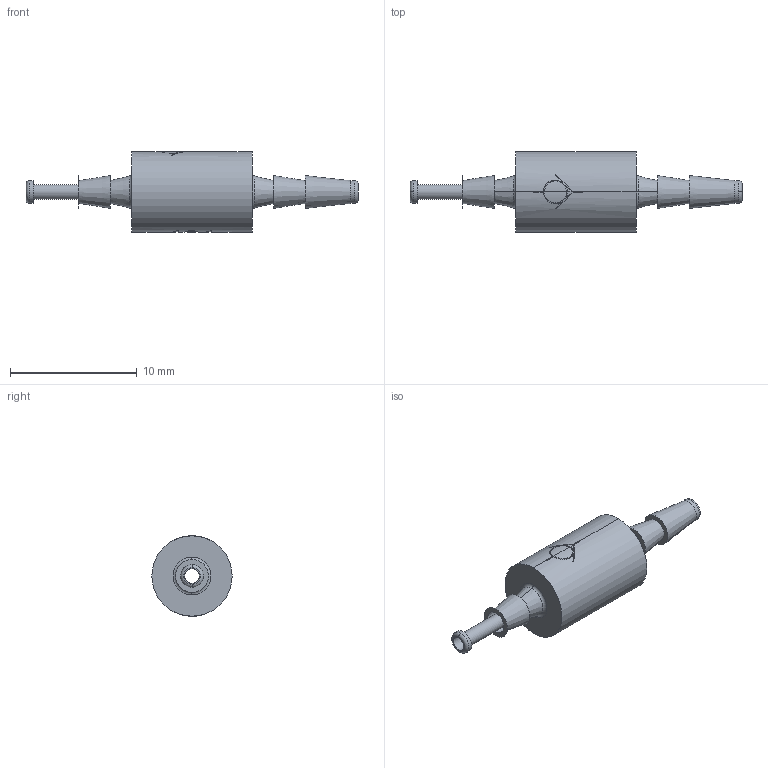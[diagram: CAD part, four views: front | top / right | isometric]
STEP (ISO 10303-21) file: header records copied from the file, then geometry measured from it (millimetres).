
FILE_DESCRIPTION(/* description */ ('SolidWorks IGES file using NURBS representation for surfaces '),/* implementation_level */ '2;1');
FILE_NAME(/* name */ 'K:\Normteile INVENTOR\Air-Logic\Check Valves\F-2804-401-B80.IGS.ipt.stp',/* time_stamp */ '2020-05-27T10:35:59+02:00',/* author */ ('amarsh'),/* organization */ (''),/* preprocessor_version */ 'ST-DEVELOPER v18',/* originating_system */ 'Autodesk Inventor 2020',/* authorisation */ '');
FILE_SCHEMA (('AUTOMOTIVE_DESIGN { 1 0 10303 214 3 1 1 }'));
Length unit declared in the file: millimetre
Products named in the file (1): F-2804-401-B80.IGS
Bounding box: 26.22 x 6.35 x 6.35 mm (x, y, z)
Surface area: 467 mm2 (no closed solid volume)
Topology: 0 solids, 2 shells, 88 faces, 240 edges, 162 vertices
Faces by surface type: plane 29, bspline 27, cylinder 16, torus 8, cone 8
Full cylindrical faces by diameter (mm): 1.17 x1, 1.8 x2
Entity records: 4880 total; most frequent: CARTESIAN_POINT 2720, ORIENTED_EDGE 474, DIRECTION 378, EDGE_CURVE 240, VERTEX_POINT 162, AXIS2_PLACEMENT_3D 141, EDGE_LOOP 98, LINE 96
